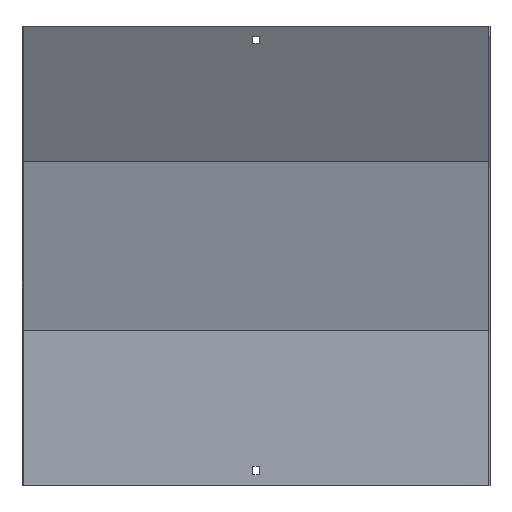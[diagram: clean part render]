
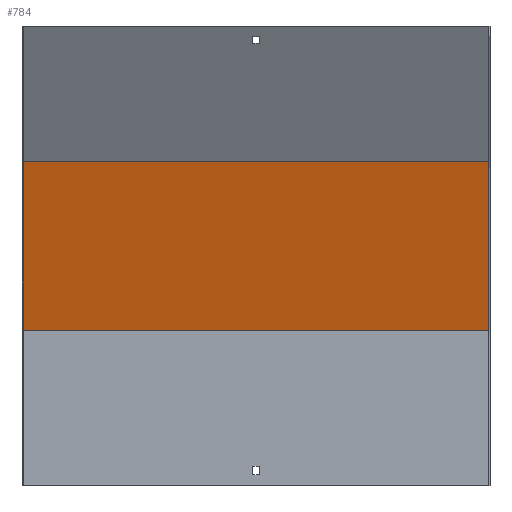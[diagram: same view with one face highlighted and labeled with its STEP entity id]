
A CAD part, front view. The second image highlights one B-rep face of the part: STEP entity #784.
In plain terms, the highlighted planar face has unit normal (0, -0.966, -0.259).
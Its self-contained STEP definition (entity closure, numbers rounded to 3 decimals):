
#79 = PLANE ( 'NONE',  #757 ) ;
#107 = EDGE_CURVE ( 'NONE', #132, #842, #714, .T. ) ;
#125 = CARTESIAN_POINT ( 'NONE',  ( 251.5, -30.383, 348.871 ) ) ;
#132 = VERTEX_POINT ( 'NONE', #657 ) ;
#139 = VECTOR ( 'NONE', #448, 1000. ) ;
#153 = LINE ( 'NONE', #815, #320 ) ;
#168 = LINE ( 'NONE', #817, #233 ) ;
#177 = EDGE_LOOP ( 'NONE', ( #636, #653, #478, #511 ) ) ;
#233 = VECTOR ( 'NONE', #429, 1000. ) ;
#241 = VERTEX_POINT ( 'NONE', #722 ) ;
#250 = VECTOR ( 'NONE', #829, 1000. ) ;
#272 = DIRECTION ( 'NONE',  ( 0., -0.966, -0.259 ) ) ;
#304 = CARTESIAN_POINT ( 'NONE',  ( -250., 58.87, 15.774 ) ) ;
#320 = VECTOR ( 'NONE', #419, 1000. ) ;
#337 = CARTESIAN_POINT ( 'NONE',  ( 251.5, 17.87, 168.788 ) ) ;
#353 = CARTESIAN_POINT ( 'NONE',  ( -250., -30.383, 348.871 ) ) ;
#419 = DIRECTION ( 'NONE',  ( -1., 0., 0. ) ) ;
#424 = EDGE_CURVE ( 'NONE', #572, #132, #168, .T. ) ;
#429 = DIRECTION ( 'NONE',  ( 0., -0.259, 0.966 ) ) ;
#436 = LINE ( 'NONE', #304, #250 ) ;
#448 = DIRECTION ( 'NONE',  ( -1., 0., 0. ) ) ;
#478 = ORIENTED_EDGE ( 'NONE', *, *, #424, .T. ) ;
#511 = ORIENTED_EDGE ( 'NONE', *, *, #107, .T. ) ;
#539 = DIRECTION ( 'NONE',  ( 0., 0.259, -0.966 ) ) ;
#572 = VERTEX_POINT ( 'NONE', #629 ) ;
#619 = EDGE_CURVE ( 'NONE', #572, #241, #153, .T. ) ;
#629 = CARTESIAN_POINT ( 'NONE',  ( 250., 18.5, 166.436 ) ) ;
#636 = ORIENTED_EDGE ( 'NONE', *, *, #674, .F. ) ;
#653 = ORIENTED_EDGE ( 'NONE', *, *, #619, .F. ) ;
#657 = CARTESIAN_POINT ( 'NONE',  ( 250., -30.383, 348.871 ) ) ;
#669 = FACE_OUTER_BOUND ( 'NONE', #177, .T. ) ;
#674 = EDGE_CURVE ( 'NONE', #241, #842, #436, .T. ) ;
#714 = LINE ( 'NONE', #125, #139 ) ;
#722 = CARTESIAN_POINT ( 'NONE',  ( -250., 18.5, 166.436 ) ) ;
#757 = AXIS2_PLACEMENT_3D ( 'NONE', #337, #272, #539 ) ;
#784 = ADVANCED_FACE ( 'NONE', ( #669 ), #79, .T. ) ;
#815 = CARTESIAN_POINT ( 'NONE',  ( 251.5, 18.5, 166.436 ) ) ;
#817 = CARTESIAN_POINT ( 'NONE',  ( 250., 58.87, 15.774 ) ) ;
#829 = DIRECTION ( 'NONE',  ( 0., -0.259, 0.966 ) ) ;
#842 = VERTEX_POINT ( 'NONE', #353 ) ;
